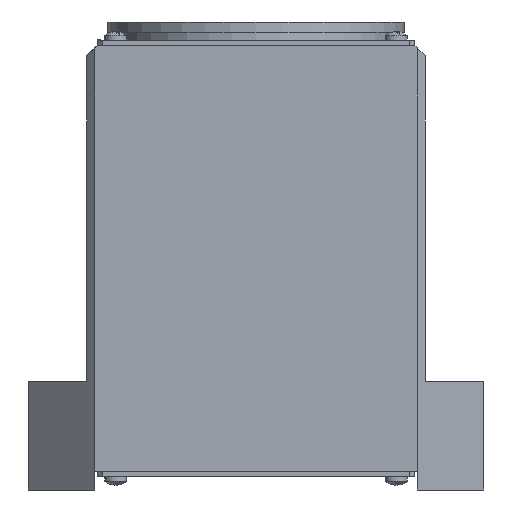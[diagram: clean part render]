
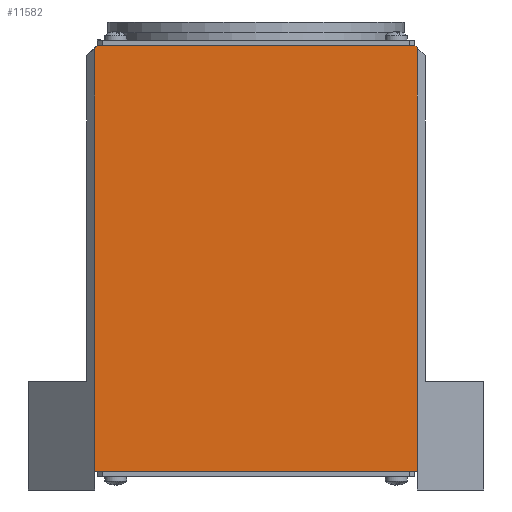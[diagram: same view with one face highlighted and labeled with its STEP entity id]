
A CAD part, front view. The second image highlights one B-rep face of the part: STEP entity #11582.
In plain terms, the highlighted planar face has unit normal (0, -1, 0).
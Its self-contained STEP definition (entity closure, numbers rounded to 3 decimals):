
#3654 = PLANE ( 'NONE',  #7047 ) ;
#3655 = CARTESIAN_POINT ( 'NONE',  ( 0., -36., -1.7 ) ) ;
#3656 = DIRECTION ( 'NONE',  ( 0., -1., 0. ) ) ;
#3657 = DIRECTION ( 'NONE',  ( 0., 0., -1. ) ) ;
#6440 = EDGE_LOOP ( 'NONE', ( #17559, #17558, #17557, #17556, #17555, #17554 ) ) ;
#7047 = AXIS2_PLACEMENT_3D ( 'NONE', #3655, #3656, #3657 ) ;
#9280 = CARTESIAN_POINT ( 'NONE',  ( 30., -36., 38.3 ) ) ;
#9282 = DIRECTION ( 'NONE',  ( -1., 0., 0. ) ) ;
#10212 = CARTESIAN_POINT ( 'NONE',  ( 30.5, -36., -25.2 ) ) ;
#10213 = DIRECTION ( 'NONE',  ( 0., 0., 1. ) ) ;
#10216 = CARTESIAN_POINT ( 'NONE',  ( 35., -36., 33.3 ) ) ;
#10218 = DIRECTION ( 'NONE',  ( -0.707, 0., 0.707 ) ) ;
#10221 = CARTESIAN_POINT ( 'NONE',  ( -35., -36., 33.3 ) ) ;
#10222 = DIRECTION ( 'NONE',  ( -0.707, 0., -0.707 ) ) ;
#10224 = CARTESIAN_POINT ( 'NONE',  ( -30.5, -36., -44.7 ) ) ;
#10225 = DIRECTION ( 'NONE',  ( 0., 0., -1. ) ) ;
#10227 = CARTESIAN_POINT ( 'NONE',  ( 30.5, -36., -42.2 ) ) ;
#10228 = DIRECTION ( 'NONE',  ( -1., 0., 0. ) ) ;
#10546 = LINE ( 'NONE', #10212, #10548 ) ;
#10548 = VECTOR ( 'NONE', #10213, 1000. ) ;
#10549 = LINE ( 'NONE', #10216, #10550 ) ;
#10550 = VECTOR ( 'NONE', #10218, 1000. ) ;
#10551 = LINE ( 'NONE', #10221, #10552 ) ;
#10552 = VECTOR ( 'NONE', #10222, 1000. ) ;
#10553 = LINE ( 'NONE', #10224, #10554 ) ;
#10554 = VECTOR ( 'NONE', #10225, 1000. ) ;
#10555 = LINE ( 'NONE', #10227, #10556 ) ;
#10556 = VECTOR ( 'NONE', #10228, 1000. ) ;
#10762 = FACE_OUTER_BOUND ( 'NONE', #6440, .T. ) ;
#11582 = ADVANCED_FACE ( 'NONE', ( #10762 ), #3654, .T. ) ;
#14856 = EDGE_CURVE ( 'NONE', #17431, #17378, #10546, .T. ) ;
#14857 = EDGE_CURVE ( 'NONE', #17378, #17399, #10549, .T. ) ;
#14858 = EDGE_CURVE ( 'NONE', #17453, #17478, #10551, .T. ) ;
#14859 = EDGE_CURVE ( 'NONE', #17478, #17363, #10553, .T. ) ;
#14860 = EDGE_CURVE ( 'NONE', #17431, #17363, #10555, .T. ) ;
#15309 = EDGE_CURVE ( 'NONE', #17399, #17453, #23599, .T. ) ;
#17363 = VERTEX_POINT ( 'NONE', #20462 ) ;
#17378 = VERTEX_POINT ( 'NONE', #20477 ) ;
#17399 = VERTEX_POINT ( 'NONE', #19118 ) ;
#17431 = VERTEX_POINT ( 'NONE', #19150 ) ;
#17453 = VERTEX_POINT ( 'NONE', #19172 ) ;
#17478 = VERTEX_POINT ( 'NONE', #19197 ) ;
#17554 = ORIENTED_EDGE ( 'NONE', *, *, #14860, .F. ) ;
#17555 = ORIENTED_EDGE ( 'NONE', *, *, #14859, .T. ) ;
#17556 = ORIENTED_EDGE ( 'NONE', *, *, #14858, .T. ) ;
#17557 = ORIENTED_EDGE ( 'NONE', *, *, #15309, .T. ) ;
#17558 = ORIENTED_EDGE ( 'NONE', *, *, #14857, .T. ) ;
#17559 = ORIENTED_EDGE ( 'NONE', *, *, #14856, .T. ) ;
#19118 = CARTESIAN_POINT ( 'NONE',  ( 30., -36., 38.3 ) ) ;
#19150 = CARTESIAN_POINT ( 'NONE',  ( 30.5, -36., -42.2 ) ) ;
#19172 = CARTESIAN_POINT ( 'NONE',  ( -30., -36., 38.3 ) ) ;
#19197 = CARTESIAN_POINT ( 'NONE',  ( -30.5, -36., 37.8 ) ) ;
#20462 = CARTESIAN_POINT ( 'NONE',  ( -30.5, -36., -42.2 ) ) ;
#20477 = CARTESIAN_POINT ( 'NONE',  ( 30.5, -36., 37.8 ) ) ;
#23599 = LINE ( 'NONE', #9280, #23600 ) ;
#23600 = VECTOR ( 'NONE', #9282, 1000. ) ;
